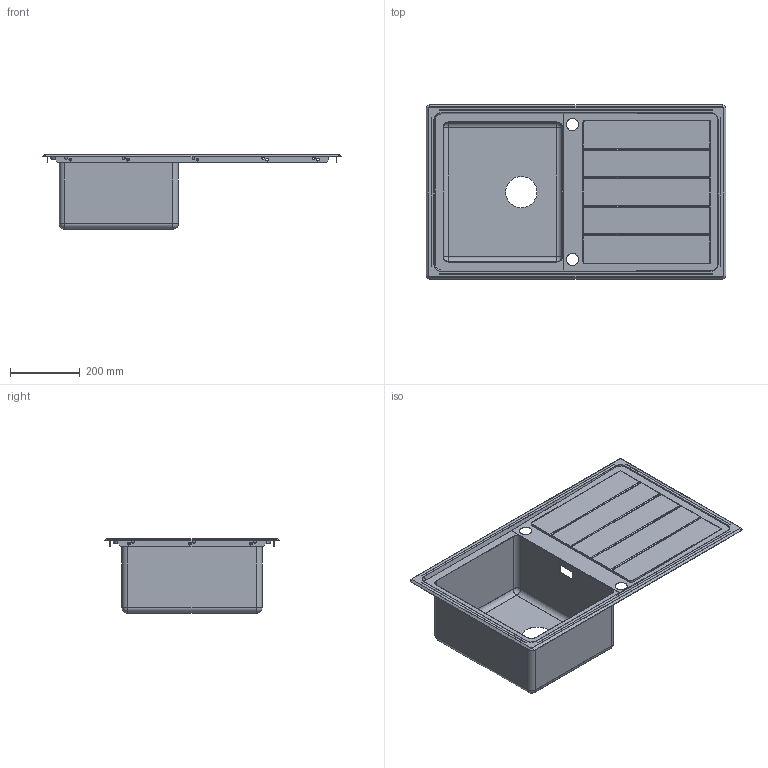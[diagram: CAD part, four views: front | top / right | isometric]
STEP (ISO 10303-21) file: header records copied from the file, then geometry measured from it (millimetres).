
FILE_DESCRIPTION(('CATIA V5 STEP Exchange'),'2;1');
FILE_NAME('C:\Users\linop\Desktop\LDR861-2.stp','2020-11-12T10:01:40+00:00',('none'),('none'),'CATIA Version 5-6 Release 2014','CATIA V5 STEP AP203','none');
FILE_SCHEMA(('CONFIG_CONTROL_DESIGN'));
Length unit declared in the file: millimetre
Products named in the file (1): LNP861S-SFR
Bounding box: 860 x 500 x 213 mm (x, y, z)
Volume: 632028 mm3; surface area: 1570861.8 mm2
Topology: 6 solids, 6 shells, 242 faces, 648 edges, 416 vertices
Faces by surface type: plane 124, cylinder 94, cone 16, sphere 8
Entity records: 7158 total; most frequent: CARTESIAN_POINT 1480, ORIENTED_EDGE 1280, DIRECTION 879, EDGE_CURVE 640, VERTEX_POINT 416, VECTOR 383, LINE 383, AXIS2_PLACEMENT_3D 343
